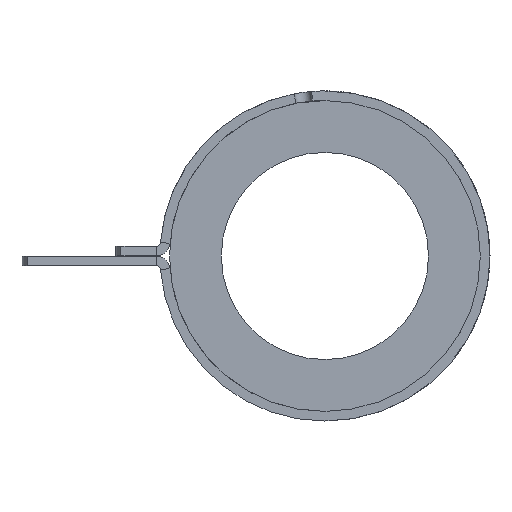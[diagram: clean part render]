
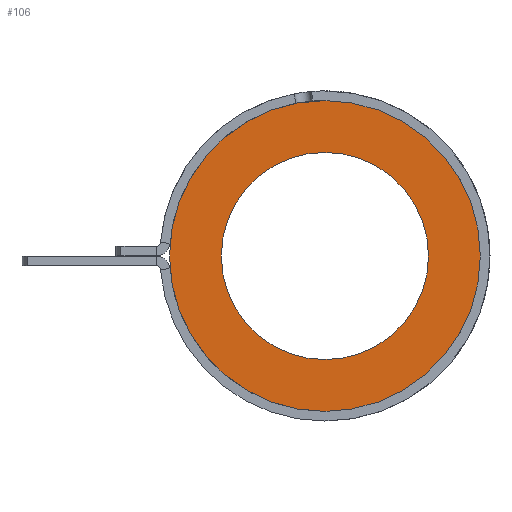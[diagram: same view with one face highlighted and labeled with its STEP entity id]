
A CAD part, left-side view. The second image highlights one B-rep face of the part: STEP entity #106.
In plain terms, the highlighted planar face has unit normal (-1, 0, 0).
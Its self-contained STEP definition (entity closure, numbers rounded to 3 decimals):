
#106 = ADVANCED_FACE ( 'NONE', ( #1682, #1690 ), #300, .F. ) ;
#198 = ORIENTED_EDGE ( 'NONE', *, *, #415, .F. ) ;
#199 = ORIENTED_EDGE ( 'NONE', *, *, #419, .F. ) ;
#200 = ORIENTED_EDGE ( 'NONE', *, *, #499, .T. ) ;
#201 = ORIENTED_EDGE ( 'NONE', *, *, #414, .T. ) ;
#231 = EDGE_LOOP ( 'NONE', ( #200, #201 ) ) ;
#234 = EDGE_LOOP ( 'NONE', ( #198, #199 ) ) ;
#300 = PLANE ( 'NONE',  #384 ) ;
#302 = CARTESIAN_POINT ( 'NONE',  ( -76.2, 0., 0. ) ) ;
#307 = DIRECTION ( 'NONE',  ( 1., 0., 0. ) ) ;
#308 = DIRECTION ( 'NONE',  ( 0., 0., -1. ) ) ;
#335 = CIRCLE ( 'NONE', #482, 9.525 ) ;
#384 = AXIS2_PLACEMENT_3D ( 'NONE', #302, #307, #308 ) ;
#402 = AXIS2_PLACEMENT_3D ( 'NONE', #1544, #1545, #1546 ) ;
#414 = EDGE_CURVE ( 'NONE', #563, #589, #951, .T. ) ;
#415 = EDGE_CURVE ( 'NONE', #586, #588, #953, .T. ) ;
#419 = EDGE_CURVE ( 'NONE', #588, #586, #958, .T. ) ;
#453 = AXIS2_PLACEMENT_3D ( 'NONE', #1442, #1443, #1444 ) ;
#482 = AXIS2_PLACEMENT_3D ( 'NONE', #1528, #1529, #1530 ) ;
#497 = AXIS2_PLACEMENT_3D ( 'NONE', #1532, #1533, #1534 ) ;
#499 = EDGE_CURVE ( 'NONE', #589, #563, #335, .T. ) ;
#563 = VERTEX_POINT ( 'NONE', #663 ) ;
#586 = VERTEX_POINT ( 'NONE', #692 ) ;
#588 = VERTEX_POINT ( 'NONE', #694 ) ;
#589 = VERTEX_POINT ( 'NONE', #695 ) ;
#663 = CARTESIAN_POINT ( 'NONE',  ( -76.2, 0., -9.525 ) ) ;
#692 = CARTESIAN_POINT ( 'NONE',  ( -76.2, 0., 14.288 ) ) ;
#694 = CARTESIAN_POINT ( 'NONE',  ( -76.2, 0., -14.288 ) ) ;
#695 = CARTESIAN_POINT ( 'NONE',  ( -76.2, 0., 9.525 ) ) ;
#951 = CIRCLE ( 'NONE', #453, 9.525 ) ;
#953 = CIRCLE ( 'NONE', #497, 14.288 ) ;
#958 = CIRCLE ( 'NONE', #402, 14.288 ) ;
#1442 = CARTESIAN_POINT ( 'NONE',  ( -76.2, 0., 0. ) ) ;
#1443 = DIRECTION ( 'NONE',  ( 1., 0., 0. ) ) ;
#1444 = DIRECTION ( 'NONE',  ( 0., 0., -1. ) ) ;
#1528 = CARTESIAN_POINT ( 'NONE',  ( -76.2, 0., 0. ) ) ;
#1529 = DIRECTION ( 'NONE',  ( 1., 0., 0. ) ) ;
#1530 = DIRECTION ( 'NONE',  ( 0., 0., -1. ) ) ;
#1532 = CARTESIAN_POINT ( 'NONE',  ( -76.2, 0., 0. ) ) ;
#1533 = DIRECTION ( 'NONE',  ( 1., 0., 0. ) ) ;
#1534 = DIRECTION ( 'NONE',  ( 0., 0., -1. ) ) ;
#1544 = CARTESIAN_POINT ( 'NONE',  ( -76.2, 0., 0. ) ) ;
#1545 = DIRECTION ( 'NONE',  ( 1., 0., 0. ) ) ;
#1546 = DIRECTION ( 'NONE',  ( 0., 0., -1. ) ) ;
#1682 = FACE_OUTER_BOUND ( 'NONE', #234, .T. ) ;
#1690 = FACE_BOUND ( 'NONE', #231, .T. ) ;
